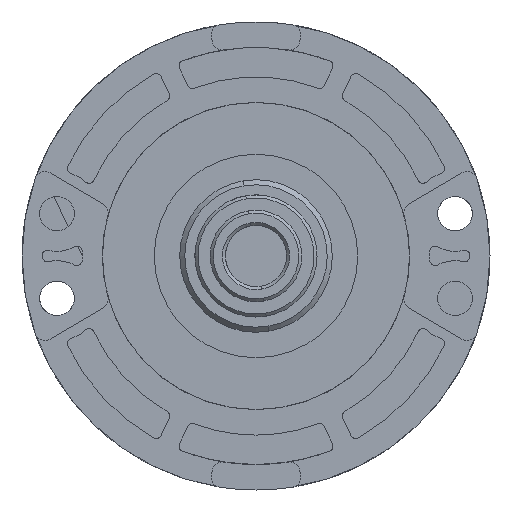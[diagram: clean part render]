
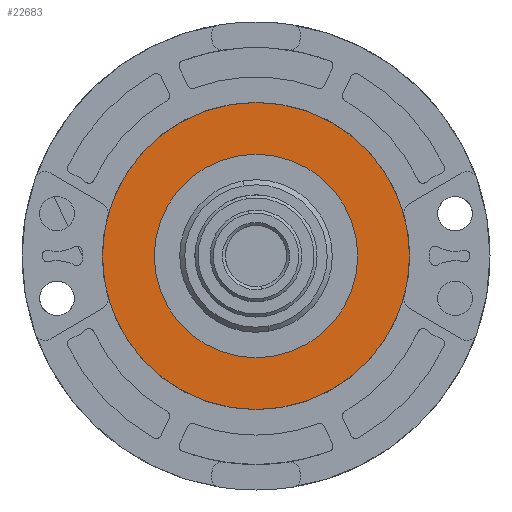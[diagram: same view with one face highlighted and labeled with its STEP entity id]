
A CAD part, front view. The second image highlights one B-rep face of the part: STEP entity #22683.
In plain terms, the highlighted planar face has unit normal (0, -1, 0).
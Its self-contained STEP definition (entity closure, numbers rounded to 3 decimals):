
#54 = DIRECTION ( 'NONE',  ( 0., -1., 0. ) ) ;
#82 = CARTESIAN_POINT ( 'NONE',  ( 0., 2.4, 0. ) ) ;
#767 = ORIENTED_EDGE ( 'NONE', *, *, #8688, .T. ) ;
#840 = CARTESIAN_POINT ( 'NONE',  ( 0., 2.4, 0. ) ) ;
#986 = CIRCLE ( 'NONE', #19731, 15.1 ) ;
#1120 = CARTESIAN_POINT ( 'NONE',  ( 0., 2.4, -15.1 ) ) ;
#1870 = DIRECTION ( 'NONE',  ( 0., -1., 0. ) ) ;
#3189 = ORIENTED_EDGE ( 'NONE', *, *, #7725, .T. ) ;
#3765 = DIRECTION ( 'NONE',  ( 0., 0., -1. ) ) ;
#5089 = CARTESIAN_POINT ( 'NONE',  ( 0., 2.4, 15.1 ) ) ;
#5262 = CARTESIAN_POINT ( 'NONE',  ( 0., 2.4, 10. ) ) ;
#6236 = AXIS2_PLACEMENT_3D ( 'NONE', #9429, #15028, #9508 ) ;
#6769 = AXIS2_PLACEMENT_3D ( 'NONE', #7258, #54, #3765 ) ;
#6895 = FACE_BOUND ( 'NONE', #9337, .T. ) ;
#7145 = EDGE_LOOP ( 'NONE', ( #767, #3189 ) ) ;
#7258 = CARTESIAN_POINT ( 'NONE',  ( 0., 2.4, 0. ) ) ;
#7725 = EDGE_CURVE ( 'NONE', #21194, #8084, #20228, .T. ) ;
#7956 = DIRECTION ( 'NONE',  ( 0., -1., 0. ) ) ;
#8084 = VERTEX_POINT ( 'NONE', #1120 ) ;
#8688 = EDGE_CURVE ( 'NONE', #8084, #21194, #986, .T. ) ;
#8751 = DIRECTION ( 'NONE',  ( 0., 0., -1. ) ) ;
#9094 = FACE_OUTER_BOUND ( 'NONE', #7145, .T. ) ;
#9337 = EDGE_LOOP ( 'NONE', ( #20663, #12700 ) ) ;
#9402 = CIRCLE ( 'NONE', #6236, 10. ) ;
#9429 = CARTESIAN_POINT ( 'NONE',  ( 0., 2.4, 0. ) ) ;
#9508 = DIRECTION ( 'NONE',  ( 0., 0., -1. ) ) ;
#9753 = CARTESIAN_POINT ( 'NONE',  ( 0., 2.4, 0. ) ) ;
#10761 = AXIS2_PLACEMENT_3D ( 'NONE', #840, #7956, #13088 ) ;
#11668 = DIRECTION ( 'NONE',  ( 0., 0., -1. ) ) ;
#12700 = ORIENTED_EDGE ( 'NONE', *, *, #14031, .F. ) ;
#13088 = DIRECTION ( 'NONE',  ( 0., 0., -1. ) ) ;
#13343 = DIRECTION ( 'NONE',  ( 0., -1., 0. ) ) ;
#13794 = VERTEX_POINT ( 'NONE', #17761 ) ;
#14031 = EDGE_CURVE ( 'NONE', #20593, #13794, #15797, .T. ) ;
#14689 = AXIS2_PLACEMENT_3D ( 'NONE', #9753, #13343, #11668 ) ;
#15028 = DIRECTION ( 'NONE',  ( 0., -1., 0. ) ) ;
#15797 = CIRCLE ( 'NONE', #10761, 10. ) ;
#17761 = CARTESIAN_POINT ( 'NONE',  ( 0., 2.4, -10. ) ) ;
#18405 = PLANE ( 'NONE',  #14689 ) ;
#19731 = AXIS2_PLACEMENT_3D ( 'NONE', #82, #1870, #8751 ) ;
#19744 = EDGE_CURVE ( 'NONE', #13794, #20593, #9402, .T. ) ;
#20228 = CIRCLE ( 'NONE', #6769, 15.1 ) ;
#20593 = VERTEX_POINT ( 'NONE', #5262 ) ;
#20663 = ORIENTED_EDGE ( 'NONE', *, *, #19744, .F. ) ;
#21194 = VERTEX_POINT ( 'NONE', #5089 ) ;
#22683 = ADVANCED_FACE ( 'NONE', ( #6895, #9094 ), #18405, .T. ) ;
